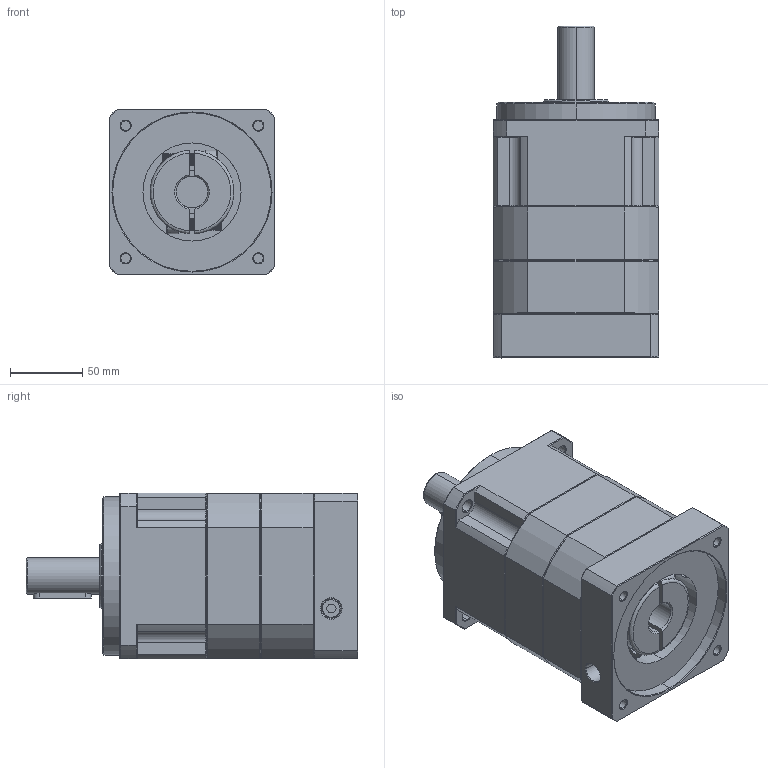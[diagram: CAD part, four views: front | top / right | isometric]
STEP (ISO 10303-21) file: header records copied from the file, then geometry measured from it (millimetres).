
FILE_DESCRIPTION (( 'STEP AP214' ), '1' );
FILE_NAME ('ZPB115-D25-L2-P1-22-110-130-M8.step', '2024-06-11T19:28:03', ( 'Windows 蚚誧' ), ( 'Organization' ), 'SwSTEP 2.0', 'SolidWorks 2016', '' );
FILE_SCHEMA (( 'AUTOMOTIVE_DESIGN' ));
Length unit declared in the file: millimetre
Products named in the file (1): ZPB115-D25-L2-P1-22-110-130-M8
Bounding box: 115 x 230 x 115 mm (x, y, z)
Surface area: 143283.9 mm2 (no closed solid volume)
Topology: 0 solids, 29 shells, 1809 faces, 4887 edges, 3137 vertices
Faces by surface type: plane 931, bspline 381, cone 274, cylinder 223
Full cylindrical faces by diameter (mm): 10.2 x1
Entity records: 97961 total; most frequent: CARTESIAN_POINT 48879, ORIENTED_EDGE 9744, DIRECTION 7454, EDGE_CURVE 4881, LINE 3164, VECTOR 3164, VERTEX_POINT 3135, AXIS2_PLACEMENT_3D 2145
